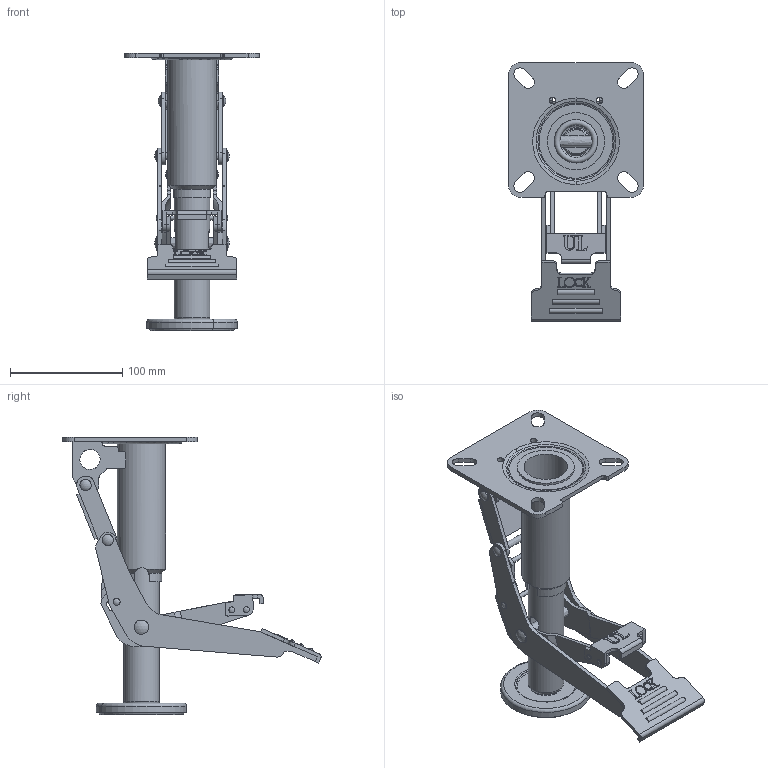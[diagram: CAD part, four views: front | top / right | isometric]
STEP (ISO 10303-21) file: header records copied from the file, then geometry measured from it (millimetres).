
FILE_DESCRIPTION( ( 'STEP AP214' ), '1' );
FILE_NAME( ' ', ' ', ( ' ' ), ( ' ' ), 'PSStep 10.0', ' ', ' ' );
FILE_SCHEMA( ( 'automotive_design' ) );
Length unit declared in the file: millimetre
Products named in the file (26): ITA _X2_306E7D50679C_X0_; ENCHU1 _X2_306E7D50679C_X0_; BOU_1 _X2_306E7D50679C_X0_; @913; @915; @917; @919; @921; @927; @929; @933; @935; @937; @939; @941; @943; @945; @947; @949; ANAITA _X2_306E7D50679C_X0_.1; ANAITA _X2_306E7D50679C_X0_.2; ANAITA_ITA _X2_306E7D50679C_X0_; @957; @1651; @1673
Bounding box: 120 x 230.26 x 248 mm (x, y, z)
Volume: 262480.5 mm3; surface area: 210198.9 mm2
Topology: 26 solids, 26 shells, 629 faces, 1677 edges, 1137 vertices
Faces by surface type: plane 282, cylinder 175, bspline 66, torus 62, cone 30, sphere 14
Full cylindrical faces by diameter (mm): 6 x2, 6.1 x2, 18 x2, 25.4 x1, 28.8 x1, 31.8 x1, 33.8 x1, 39 x1, 43 x1, 51 x1
Entity records: 31923 total; most frequent: CARTESIAN_POINT 11757, ORIENTED_EDGE 3238, DIRECTION 2719, EDGE_CURVE 1619, VERTEX_POINT 1130, AXIS2_PLACEMENT_3D 1030, EDGE_LOOP 787, FACE_OUTER_BOUND 678
